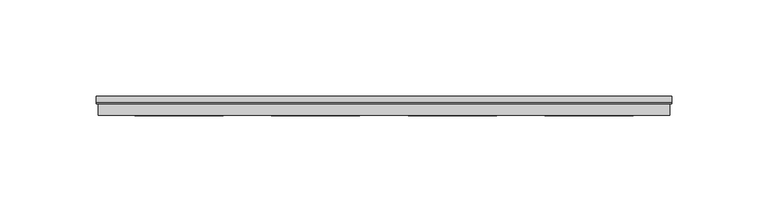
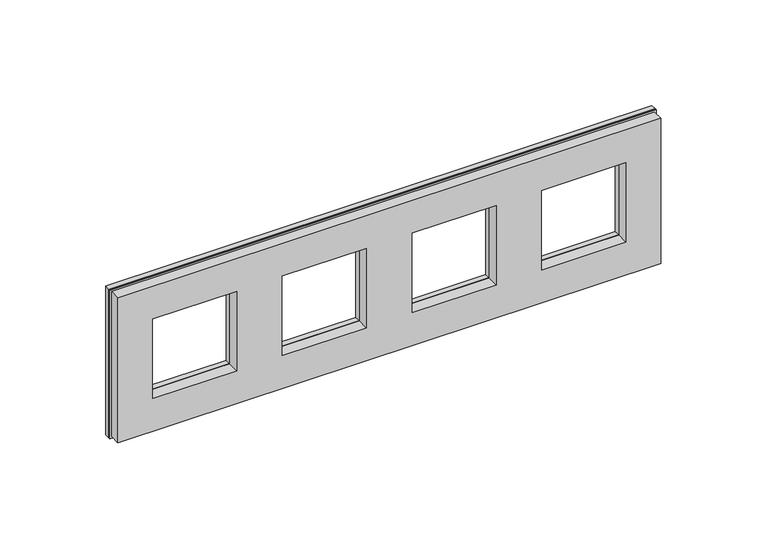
"""IFC4 building model written with IfcOpenShell, lengths in millimetres: proxy geometry, IEK_Skandy_Рамка : x4_SK-F24B."""

from ifc_helpers import new_model, si_unit, frame, origin, place, context, project, spatial, polyline, outline, extrude, faceted_brep, source, transform, mapped, element, save


def electrical_fixtures_70c48a39(model_context):
    return source(origin(), model_context, "Body", "SolidModel", [
        extrude(outline(polyline([(43.0, -256.0), (-43.0, -256.0), (-43.0, 43.0), (43.0, 43.0), (43.0, -256.0)]), holes=[polyline([(23.0, -23.0), (23.0, 23.0), (-23.0, 23.0), (-23.0, -23.0), (23.0, -23.0)]), polyline([(23.0, -236.0), (23.0, -190.0), (-23.0, -190.0), (-23.0, -236.0), (23.0, -236.0)]), polyline([(23.0, -165.0), (23.0, -119.0), (-23.0, -119.0), (-23.0, -165.0), (23.0, -165.0)]), polyline([(23.0, -94.0), (23.0, -48.0), (-23.0, -48.0), (-23.0, -94.0), (23.0, -94.0)])]), frame((0.0, 7.0, 0.0), z_axis=(0.0, 1.0, 0.0), x_axis=(0.0, 0.0, 1.0)), (0.0, 0.0, 1.0), 3.0),
        faceted_brep([(-236.0, 0.0, 23.0), (-236.0, 7.0, 23.0), (-190.0, 7.0, 23.0), (-190.0, 0.0, 23.0), (-190.0, 7.0, -23.0), (-190.0, 0.0, -23.0), (-236.0, 7.0, -23.0), (-236.0, 0.0, -23.0), (-256.0, 7.0, 43.0), (43.0, 7.0, 43.0), (43.0, 7.0, -43.0), (-256.0, 7.0, -43.0), (-119.0, 7.0, 23.0), (-165.0, 7.0, 23.0), (-165.0, 7.0, -23.0), (-119.0, 7.0, -23.0), (23.0, 7.0, 23.0), (-23.0, 7.0, 23.0), (-23.0, 7.0, -23.0), (23.0, 7.0, -23.0), (-48.0, 7.0, 23.0), (-94.0, 7.0, 23.0), (-94.0, 7.0, -23.0), (-48.0, 7.0, -23.0), (-255.0, 0.0, 42.0), (-255.0, 0.0, -42.0), (42.0, 0.0, -42.0), (42.0, 0.0, 42.0), (-165.0, 0.0, 23.0), (-119.0, 0.0, 23.0), (-119.0, 0.0, -23.0), (-165.0, 0.0, -23.0), (-23.0, 0.0, 23.0), (23.0, 0.0, 23.0), (23.0, 0.0, -23.0), (-23.0, 0.0, -23.0), (-94.0, 0.0, 23.0), (-48.0, 0.0, 23.0), (-48.0, 0.0, -23.0), (-94.0, 0.0, -23.0), (-255.0, 6.0, 42.0), (-255.0, 6.0, -42.0), (42.0, 6.0, -42.0), (42.0, 6.0, 42.0), (-256.0, 6.0, 43.0), (-256.0, 6.0, -43.0), (43.0, 6.0, -43.0), (43.0, 6.0, 43.0)], [[[0, 1, 2, 3]], [[3, 2, 4, 5]], [[5, 4, 6, 7]], [[1, 0, 7, 6]], [[8, 9, 10, 11], [2, 1, 6, 4], [12, 13, 14, 15], [16, 17, 18, 19], [20, 21, 22, 23]], [[24, 25, 26, 27], [0, 3, 5, 7], [28, 29, 30, 31], [32, 33, 34, 35], [36, 37, 38, 39]], [[25, 24, 40, 41]], [[26, 25, 41, 42]], [[27, 26, 42, 43]], [[24, 27, 43, 40]], [[28, 13, 12, 29]], [[29, 12, 15, 30]], [[30, 15, 14, 31]], [[13, 28, 31, 14]], [[32, 17, 16, 33]], [[33, 16, 19, 34]], [[34, 19, 18, 35]], [[17, 32, 35, 18]], [[36, 21, 20, 37]], [[37, 20, 23, 38]], [[38, 23, 22, 39]], [[21, 36, 39, 22]], [[44, 45, 46, 47], [41, 40, 43, 42]], [[45, 44, 8, 11]], [[46, 45, 11, 10]], [[47, 46, 10, 9]], [[44, 47, 9, 8]]]),
    ])


if __name__ == "__main__":
    model = new_model("IFC4")
    model_context = context("Model", 3, world=origin())
    ifc_project = project(units=[si_unit("LENGTHUNIT", "METRE", prefix="MILLI")], contexts=[model_context])
    site = spatial("IfcSite", under=ifc_project)
    building = spatial("IfcBuilding", under=site)
    placement = place(None, origin())
    electrical_fixtures_shape = electrical_fixtures_70c48a39(model_context)
    element("IfcBuildingElementProxy", 1, Name="IEK_Skandy_Рамка : x4_SK-F24B", ObjectType="IEK_Skandy_Рамка : x4_SK-F24B", at=placement, inside=building, context=model_context, shape_type="MappedRepresentation", body=[
        mapped(electrical_fixtures_shape, transform((0.0, 0.0, 0.0), x_axis=(1.0, 0.0, 0.0), y_axis=(0.0, 1.0, 0.0), z_axis=(0.0, 0.0, 1.0))),
    ])
    save(model, "model.ifc")
